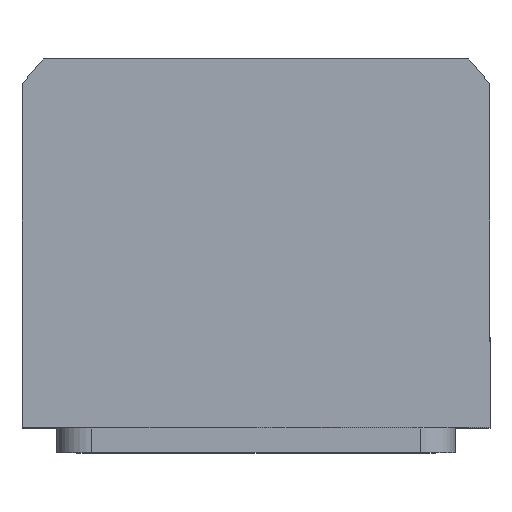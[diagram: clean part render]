
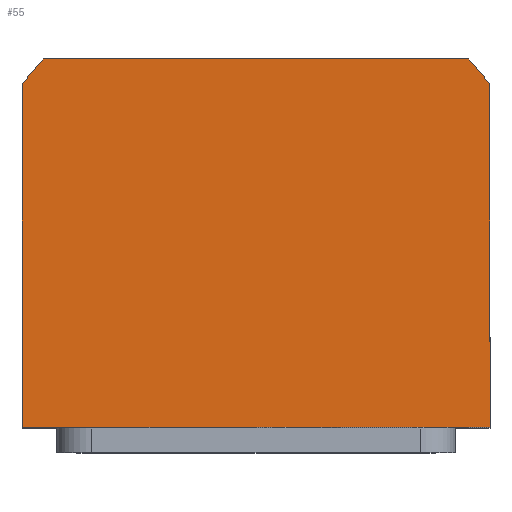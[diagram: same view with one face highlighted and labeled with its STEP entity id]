
A CAD part, top view. The second image highlights one B-rep face of the part: STEP entity #55.
In plain terms, the highlighted planar face has unit normal (0, 0, 1).
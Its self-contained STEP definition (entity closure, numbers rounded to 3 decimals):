
#55 = ADVANCED_FACE ( 'NONE', ( #1538 ), #2713, .T. ) ;
#122 = CARTESIAN_POINT ( 'NONE',  ( 0., 0., 60. ) ) ;
#477 = CIRCLE ( 'NONE', #1931, 58.5 ) ;
#802 = CARTESIAN_POINT ( 'NONE',  ( 47., -34., 60. ) ) ;
#910 = DIRECTION ( 'NONE',  ( 1., 0., 0. ) ) ;
#929 = DIRECTION ( 'NONE',  ( -1., 0., 0. ) ) ;
#1207 = EDGE_LOOP ( 'NONE', ( #3251, #6157, #1871, #8181, #7546, #1531 ) ) ;
#1216 = CARTESIAN_POINT ( 'NONE',  ( 47., -34., 60. ) ) ;
#1531 = ORIENTED_EDGE ( 'NONE', *, *, #1733, .T. ) ;
#1538 = FACE_OUTER_BOUND ( 'NONE', #1207, .T. ) ;
#1717 = DIRECTION ( 'NONE',  ( 0., 0., 1. ) ) ;
#1733 = EDGE_CURVE ( 'NONE', #4985, #3477, #10691, .T. ) ;
#1871 = ORIENTED_EDGE ( 'NONE', *, *, #5326, .T. ) ;
#1880 = VECTOR ( 'NONE', #6565, 1000. ) ;
#1931 = AXIS2_PLACEMENT_3D ( 'NONE', #7673, #5963, #910 ) ;
#1958 = CARTESIAN_POINT ( 'NONE',  ( 42.688, 40., 60. ) ) ;
#2237 = CARTESIAN_POINT ( 'NONE',  ( 47., 34.832, 60. ) ) ;
#2422 = AXIS2_PLACEMENT_3D ( 'NONE', #122, #1717, #7881 ) ;
#2599 = CARTESIAN_POINT ( 'NONE',  ( -42.688, 40., 60. ) ) ;
#2635 = DIRECTION ( 'NONE',  ( 0., -1., 0. ) ) ;
#2713 = PLANE ( 'NONE',  #6584 ) ;
#2978 = EDGE_CURVE ( 'NONE', #10254, #6616, #5324, .T. ) ;
#3251 = ORIENTED_EDGE ( 'NONE', *, *, #9640, .T. ) ;
#3477 = VERTEX_POINT ( 'NONE', #7514 ) ;
#3757 = EDGE_CURVE ( 'NONE', #6616, #4985, #5447, .T. ) ;
#4322 = VERTEX_POINT ( 'NONE', #802 ) ;
#4501 = CARTESIAN_POINT ( 'NONE',  ( 0., 0., 60. ) ) ;
#4985 = VERTEX_POINT ( 'NONE', #9738 ) ;
#5314 = DIRECTION ( 'NONE',  ( 0., 0., 1. ) ) ;
#5324 = LINE ( 'NONE', #2599, #6557 ) ;
#5326 = EDGE_CURVE ( 'NONE', #9844, #10254, #477, .T. ) ;
#5447 = CIRCLE ( 'NONE', #2422, 58.5 ) ;
#5678 = CARTESIAN_POINT ( 'NONE',  ( 47., 34.832, 60. ) ) ;
#5963 = DIRECTION ( 'NONE',  ( 0., 0., 1. ) ) ;
#6157 = ORIENTED_EDGE ( 'NONE', *, *, #6783, .T. ) ;
#6233 = DIRECTION ( 'NONE',  ( 1., 0., 0. ) ) ;
#6302 = LINE ( 'NONE', #5678, #1880 ) ;
#6557 = VECTOR ( 'NONE', #929, 1000. ) ;
#6565 = DIRECTION ( 'NONE',  ( 0., 1., 0. ) ) ;
#6584 = AXIS2_PLACEMENT_3D ( 'NONE', #4501, #5314, #8741 ) ;
#6616 = VERTEX_POINT ( 'NONE', #7247 ) ;
#6623 = VECTOR ( 'NONE', #6233, 1000. ) ;
#6783 = EDGE_CURVE ( 'NONE', #4322, #9844, #6302, .T. ) ;
#7247 = CARTESIAN_POINT ( 'NONE',  ( -42.688, 40., 60. ) ) ;
#7514 = CARTESIAN_POINT ( 'NONE',  ( -47., -34., 60. ) ) ;
#7546 = ORIENTED_EDGE ( 'NONE', *, *, #3757, .T. ) ;
#7673 = CARTESIAN_POINT ( 'NONE',  ( 0., 0., 60. ) ) ;
#7881 = DIRECTION ( 'NONE',  ( 1., 0., 0. ) ) ;
#7887 = CARTESIAN_POINT ( 'NONE',  ( -47., -34., 60. ) ) ;
#8181 = ORIENTED_EDGE ( 'NONE', *, *, #2978, .T. ) ;
#8741 = DIRECTION ( 'NONE',  ( 1., 0., 0. ) ) ;
#8979 = VECTOR ( 'NONE', #2635, 1000. ) ;
#9640 = EDGE_CURVE ( 'NONE', #3477, #4322, #10487, .T. ) ;
#9738 = CARTESIAN_POINT ( 'NONE',  ( -47., 34.832, 60. ) ) ;
#9844 = VERTEX_POINT ( 'NONE', #2237 ) ;
#10254 = VERTEX_POINT ( 'NONE', #1958 ) ;
#10487 = LINE ( 'NONE', #1216, #6623 ) ;
#10691 = LINE ( 'NONE', #7887, #8979 ) ;
